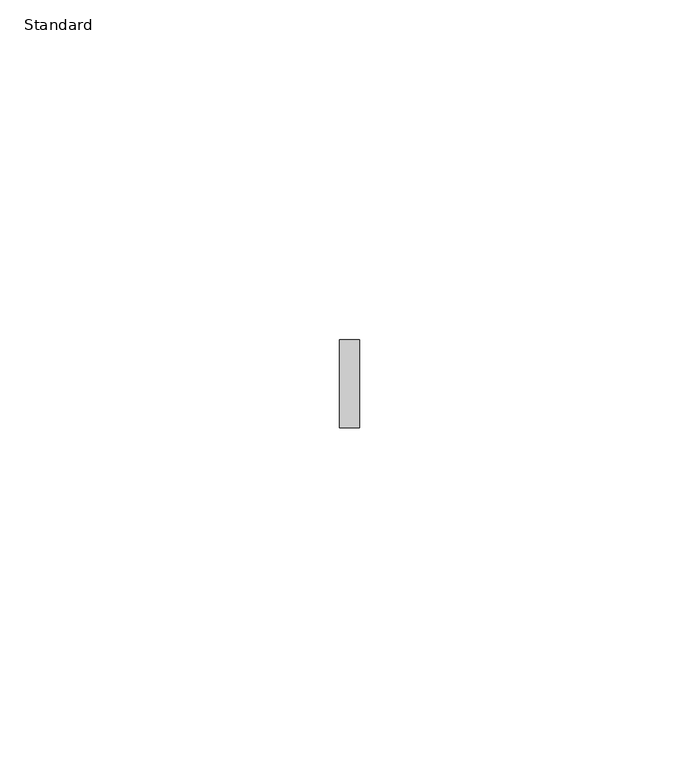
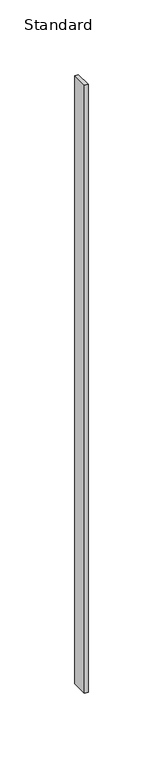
"""IFC4 building model written with IfcOpenShell, lengths in millimetres: furniture geometry, X_Locker-Duracube-Panel : Standard."""

import ifcopenshell
import ifcopenshell.guid

model = None  # the IFC model being written
_history = None  # IfcOwnerHistory: only IFC2X3 demands one
_inside = {}  # id of a spatial element -> (the spatial element, [elements in it])
_under = {}  # id of a project, library or spatial element -> (it, [spatial elements below it])
_declared = {}  # id of a project -> (the project, [libraries it declares])
_typed = {}  # id of a type object -> (the type object, [elements of that type])
_made_of = {}  # id of a material, layer set ... -> (it, [elements and type objects made of it])


def new_model(schema):
    """Start an empty IFC model of exactly this schema.

    Asked for "IFC4X3", IfcOpenShell would pick the latest addendum, in which some entities
    have other attributes; the version numbers below select the first issue.
    IFC2X3 requires an IfcOwnerHistory on every rooted entity: one is made here for all.
    """
    global model, _history
    if schema == "IFC4X3":
        model = ifcopenshell.file(schema_version=(4, 3, 0, 0))
    else:
        model = ifcopenshell.file(schema=schema)
    _inside.clear()
    _under.clear()
    _declared.clear()
    _typed.clear()
    _made_of.clear()
    _history = None
    if model.schema == "IFC2X3":
        org = make("IfcOrganization", Name="unknown")
        user = make(
            "IfcPersonAndOrganization",
            ThePerson=make("IfcPerson", FamilyName="unknown"),
            TheOrganization=org,
        )
        app = make(
            "IfcApplication",
            ApplicationDeveloper=org,
            Version="unknown",
            ApplicationFullName="unknown",
            ApplicationIdentifier="unknown",
        )
        _history = make(
            "IfcOwnerHistory",
            OwningUser=user,
            OwningApplication=app,
            ChangeAction="ADDED",
            CreationDate=0,
        )
    return model


def make(cls, **values):
    """One entity of the class cls with the attributes given. An attribute that is None is left unset."""
    return model.create_entity(
        cls, **{name: value for name, value in values.items() if value is not None}
    )


def rooted(cls, **values):
    """An entity with a GlobalId (a new one), such as an element, a storey or a relation."""
    return make(cls, GlobalId=ifcopenshell.guid.new(), OwnerHistory=_history, **values)


def si_unit(unit_type, name, prefix=None):
    """IfcSIUnit, for example si_unit("LENGTHUNIT", "METRE", prefix="MILLI")."""
    return make("IfcSIUnit", UnitType=unit_type, Prefix=prefix, Name=name)


def assignment(units):
    """IfcUnitAssignment: the units of a project."""
    return None if units is None else make("IfcUnitAssignment", Units=units)


def point(xyz):
    """IfcCartesianPoint."""
    return None if xyz is None else make("IfcCartesianPoint", Coordinates=xyz)


def direction(xyz):
    """IfcDirection."""
    return None if xyz is None else make("IfcDirection", DirectionRatios=xyz)


def frame(location, z_axis=None, x_axis=None):
    """IfcAxis2Placement3D, a coordinate frame: its origin and axes. An axis left out is left unset."""
    return make(
        "IfcAxis2Placement3D",
        Location=point(location),
        Axis=direction(z_axis),
        RefDirection=direction(x_axis),
    )


def origin():
    """The frame at (0, 0, 0) with its axes left unset."""
    return frame((0.0, 0.0, 0.0))


def place(relative_to, where):
    """IfcLocalPlacement: puts the frame where relative to a parent placement (None: the world)."""
    return make(
        "IfcLocalPlacement", PlacementRelTo=relative_to, RelativePlacement=where
    )


def context(
    kind, dimensions, precision=None, world=None, true_north=None, identifier=None
):
    """IfcGeometricRepresentationContext, for example the 3D "Model" context."""
    return make(
        "IfcGeometricRepresentationContext",
        ContextIdentifier=identifier,
        ContextType=kind,
        CoordinateSpaceDimension=dimensions,
        Precision=precision,
        WorldCoordinateSystem=world,
        TrueNorth=true_north,
    )


def project(units=None, contexts=None):
    """IfcProject with its units and contexts."""
    return rooted(
        "IfcProject",
        Name="project",
        RepresentationContexts=contexts,
        UnitsInContext=assignment(units),
    )


def spatial(cls, under=None, at=None, **own):
    """A site, building, storey or space (cls), placed at a placement, below another one or the project."""
    s = rooted(cls, ObjectPlacement=at, **own)
    if under is not None:
        _under.setdefault(under.id(), (under, []))[1].append(s)
    return s


def polyline(points):
    """IfcPolyline through the points."""
    return make("IfcPolyline", Points=[point(p) for p in points])


def outline(outer, holes=None, kind="AREA"):
    """IfcArbitraryClosedProfileDef: a profile drawn as a closed curve; with holes, ...WithVoids."""
    if holes is None:
        return make("IfcArbitraryClosedProfileDef", ProfileType=kind, OuterCurve=outer)
    return make(
        "IfcArbitraryProfileDefWithVoids",
        ProfileType=kind,
        OuterCurve=outer,
        InnerCurves=holes,
    )


def extrude(swept, where, along, depth):
    """IfcExtrudedAreaSolid: the profile swept, set in the frame where, extruded along a direction by depth."""
    return make(
        "IfcExtrudedAreaSolid",
        SweptArea=swept,
        Position=where,
        ExtrudedDirection=direction(along),
        Depth=depth,
    )


def shape(context_of_items, identifier, shape_type, items):
    """IfcShapeRepresentation: the items that make up one representation, for example the "Body"."""
    return make(
        "IfcShapeRepresentation",
        ContextOfItems=context_of_items,
        RepresentationIdentifier=identifier,
        RepresentationType=shape_type,
        Items=items,
    )


def source(mapping_origin, context_of_items, identifier, shape_type, items):
    """IfcRepresentationMap: a shape defined once, which mapped items show again and again."""
    return make(
        "IfcRepresentationMap",
        MappingOrigin=mapping_origin,
        MappedRepresentation=shape(context_of_items, identifier, shape_type, items),
    )


def transform(
    local_origin,
    x_axis=None,
    y_axis=None,
    z_axis=None,
    scale=None,
    scale2=None,
    scale3=None,
    uniform=True,
):
    """IfcCartesianTransformationOperator3D, or its non-uniform kind. x_axis, y_axis, z_axis: its Axis1, 2, 3."""
    if uniform:
        return make(
            "IfcCartesianTransformationOperator3D",
            Axis1=direction(x_axis),
            Axis2=direction(y_axis),
            LocalOrigin=point(local_origin),
            Scale=scale,
            Axis3=direction(z_axis),
        )
    return make(
        "IfcCartesianTransformationOperator3DnonUniform",
        Axis1=direction(x_axis),
        Axis2=direction(y_axis),
        LocalOrigin=point(local_origin),
        Scale=scale,
        Axis3=direction(z_axis),
        Scale2=scale2,
        Scale3=scale3,
    )


def mapped(mapping_source, mapping_target):
    """IfcMappedItem: shows the shape of a source again, moved by a transform."""
    return make(
        "IfcMappedItem", MappingSource=mapping_source, MappingTarget=mapping_target
    )


def made_of(thing, what):
    """Note that an element or type object is made of a material, layer set ...; save() writes the relation."""
    if what is not None:
        _made_of.setdefault(what.id(), (what, []))[1].append(thing)
    return thing


def element(
    cls,
    number,
    at=None,
    inside=None,
    cuts=None,
    type_object=None,
    material=None,
    context=None,
    identifier="Body",
    shape_type=None,
    held_by="IfcProductDefinitionShape",
    body=None,
    shapes=None,
    **own,
):
    """One element of the class cls, such as IfcWall. Its Tag is "e" and its number.

    at: its placement. inside: the storey or other place that contains it. cuts: it is an
    opening in that element (IfcRelVoidsElement). A single representation is given by context,
    identifier, shape_type and body (its items); several are given by shapes. held_by: the class
    of the entity that holds the representations. save() writes the other relations.
    """
    e = rooted(cls, Tag="e%d" % number, ObjectPlacement=at, **own)
    if body is not None:
        shapes = [shape(context, identifier, shape_type, body)]
    if shapes is not None:
        e.Representation = make(held_by, Representations=shapes)
    if inside is not None:
        _inside.setdefault(inside.id(), (inside, []))[1].append(e)
    if cuts is not None:
        rooted(
            "IfcRelVoidsElement", RelatingBuildingElement=cuts, RelatedOpeningElement=e
        )
    if type_object is not None:
        _typed.setdefault(type_object.id(), (type_object, []))[1].append(e)
    return made_of(e, material)


def aggregate(whole, parts):
    """IfcRelAggregates: a whole, such as a stair, and the parts it consists of."""
    return rooted("IfcRelAggregates", RelatingObject=whole, RelatedObjects=parts)


def save(model, path):
    """Write the relations noted so far, then the file.

    IfcRelAggregates (storeys below a building ...), IfcRelContainedInSpatialStructure (elements
    in a storey), IfcRelDefinesByType, IfcRelAssociatesMaterial and IfcRelDeclares: one each for
    every whole, place, type object, material and project.
    """
    for whole, parts in _under.values():
        aggregate(whole, parts)
    for where, things in _inside.values():
        rooted(
            "IfcRelContainedInSpatialStructure",
            RelatedElements=things,
            RelatingStructure=where,
        )
    for kind, things in _typed.values():
        rooted("IfcRelDefinesByType", RelatedObjects=things, RelatingType=kind)
    for what, things in _made_of.values():
        rooted("IfcRelAssociatesMaterial", RelatedObjects=things, RelatingMaterial=what)
    for by, libraries in _declared.values():
        rooted("IfcRelDeclares", RelatingContext=by, RelatedDefinitions=libraries)
    model.write(path)


def standard_9a15c5b4(model_context):
    return source(origin(), model_context, "Body", "SweptSolid", [
        extrude(outline(polyline([(46.2003264, -13.0), (43.2003264, -13.0), (43.2003264, 0.0), (46.2003264, 0.0), (46.2003264, -13.0)])), frame((0.0, 0.0, 1.0), z_axis=(0.0, 0.0, 1.0), x_axis=(1.0, 0.0, 0.0)), (0.0, 0.0, 1.0), 498.0),
    ])


if __name__ == "__main__":
    model = new_model("IFC4")
    model_context = context("Model", 3, world=origin())
    ifc_project = project(units=[si_unit("LENGTHUNIT", "METRE", prefix="MILLI")], contexts=[model_context])
    site = spatial("IfcSite", under=ifc_project)
    building = spatial("IfcBuilding", under=site)
    placement = place(None, origin())
    standard_shape = standard_9a15c5b4(model_context)
    element("IfcFurniture", 1, ObjectType="X_Locker-Duracube-Panel : Standard", at=placement, inside=building, context=model_context, shape_type="MappedRepresentation", body=[
        mapped(standard_shape, transform((0.0, 0.0, 0.0), x_axis=(1.0, 0.0, 0.0), y_axis=(0.0, 1.0, 0.0), z_axis=(0.0, 0.0, 1.0))),
    ])
    save(model, "model.ifc")
